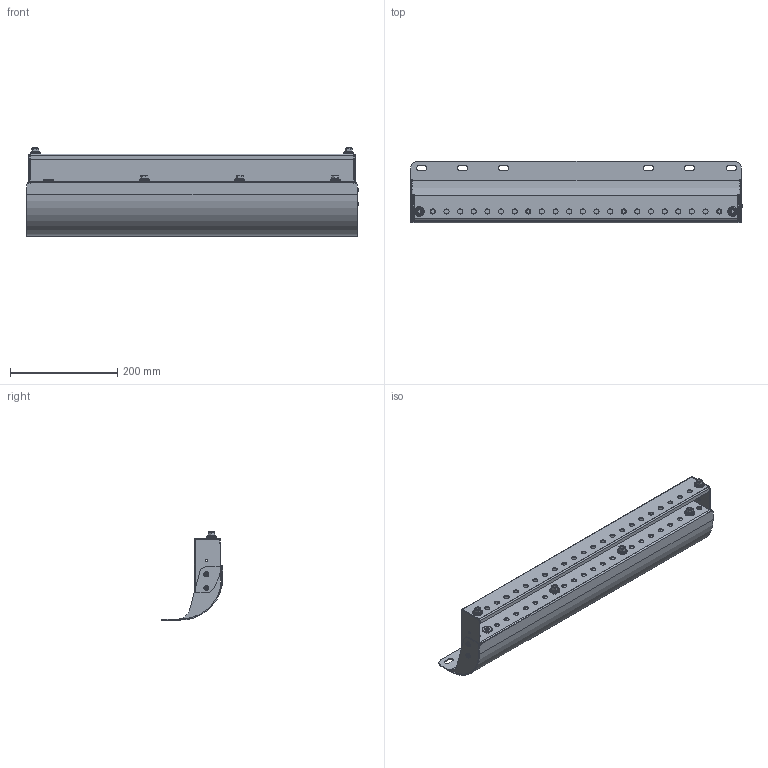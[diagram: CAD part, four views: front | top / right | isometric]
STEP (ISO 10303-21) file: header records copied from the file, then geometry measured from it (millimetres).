
FILE_DESCRIPTION(/* description */ ('LADDER RACK ADJUSTABLE OUTSIDE BRACKET'),/* implementation_level */ '2;1');
FILE_NAME(/* name */ 'Y:\Inventor\I019XXX\I019871\I019871.stp',/* time_stamp */ '2015-05-20T08:23:33-04:00',/* author */ ('dustinh'),/* organization */ (''),/* preprocessor_version */ 'ST-DEVELOPER v15.6',/* originating_system */ 'Autodesk Inventor 2015',/* authorisation */ '');
FILE_SCHEMA (('AUTOMOTIVE_DESIGN { 1 0 10303 214 3 1 1 }'));
Length unit declared in the file: inch
Products named in the file (8): I019873; I019874; I019872; 1420FLANGE NUT; H03-008; H01-068; I019875; I019871
Assembly tree (25 placements, depth 3):
  I019871
    I019872
      I019873
      I019874
    1420FLANGE NUT  x5
    H03-008  x12
    H01-068  x4
    I019875
Bounding box: 618.65 x 114.3 x 164.12 mm (x, y, z)
Volume: 565903.8 mm3; surface area: 634773.4 mm2
Topology: 24 solids, 24 shells, 509 faces, 1148 edges, 699 vertices
Faces by surface type: plane 254, cylinder 176, torus 53, bspline 12, cone 10, sphere 4
Full cylindrical faces by diameter (mm): 4.039 x6, 4.826 x4, 5.537 x4, 6.35 x5, 7.938 x12, 9.525 x74, 14.287 x5, 18.644 x12
Entity records: 8978 total; most frequent: CARTESIAN_POINT 1759, DIRECTION 1480, ORIENTED_EDGE 1230, EDGE_CURVE 615, AXIS2_PLACEMENT_3D 586, EDGE_LOOP 560, VERTEX_POINT 435, LINE 308
